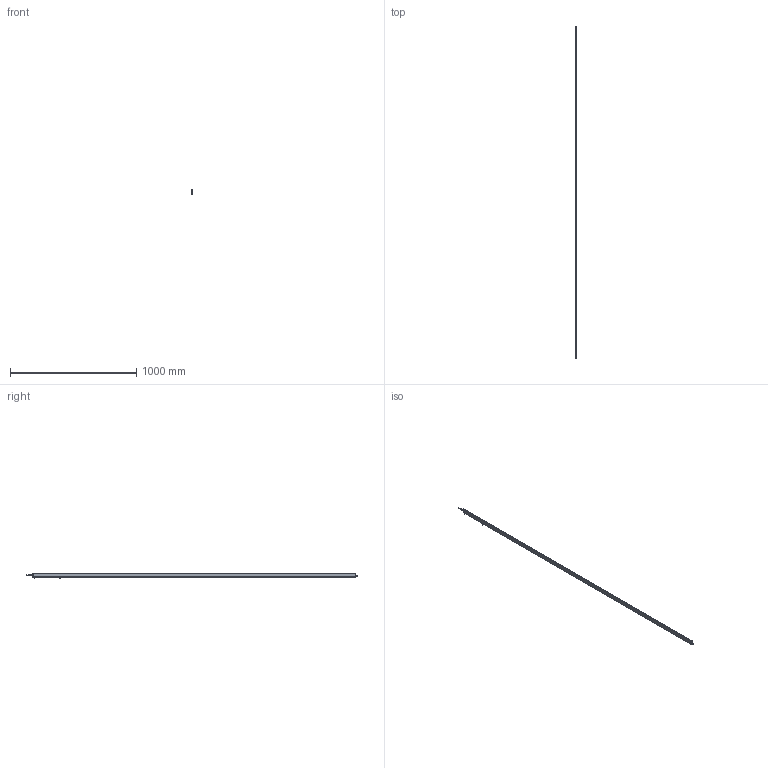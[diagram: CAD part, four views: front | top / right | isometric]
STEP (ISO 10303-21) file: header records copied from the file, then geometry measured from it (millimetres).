
FILE_DESCRIPTION (( 'STEP AP214' ), '1' );
FILE_NAME ('ILG-B-K2-2560mm.STEP', '2017-07-10T13:13:33', ( '' ), ( '' ), 'SwSTEP 2.0', 'SolidWorks 2016', '' );
FILE_SCHEMA (( 'AUTOMOTIVE_DESIGN' ));
Length unit declared in the file: millimetre
Products named in the file (1): ILG-B-K2-2560mm
Bounding box: 9 x 2633.5 x 46.21 mm (x, y, z)
Surface area: 424080.2 mm2 (no closed solid volume)
Topology: 0 solids, 15 shells, 702 faces, 1822 edges, 1157 vertices
Faces by surface type: cylinder 287, plane 266, cone 99, bspline 32, torus 18
Entity records: 31388 total; most frequent: CARTESIAN_POINT 6631, ORIENTED_EDGE 3597, DIRECTION 3488, EDGE_CURVE 1806, AXIS2_PLACEMENT_3D 1342, VERTEX_POINT 1157, VECTOR 804, LINE 804
